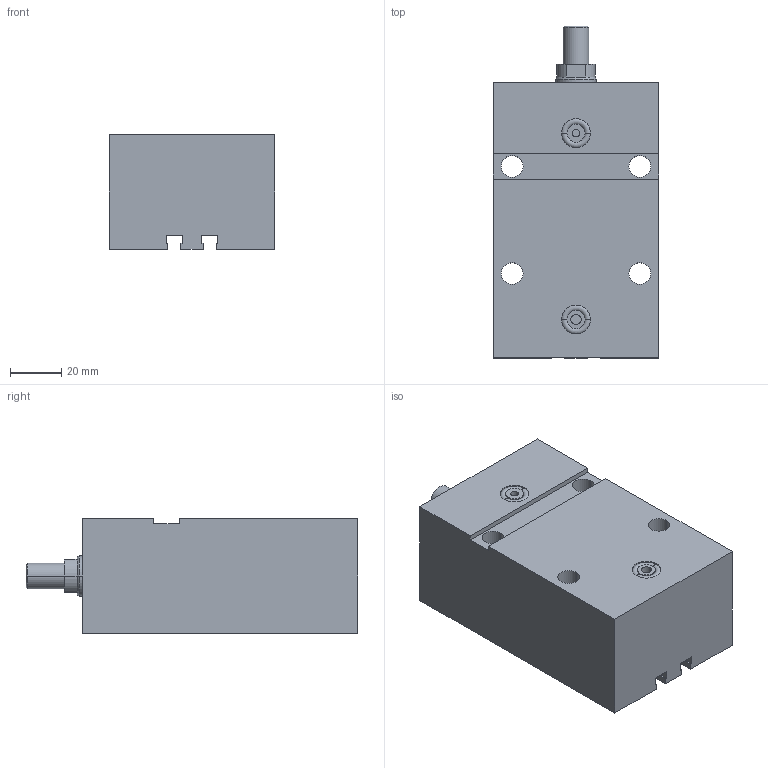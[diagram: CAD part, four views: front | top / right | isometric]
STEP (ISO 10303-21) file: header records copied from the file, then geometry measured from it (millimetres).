
FILE_DESCRIPTION (( 'STEP AP203' ), '1' );
FILE_NAME ('GERMA_Blockzylinder_704-025-050-A.STEP', '2016-08-01T17:05:45', ( '' ), ( '' ), 'SwSTEP 2.0', 'SolidWorks 2015', '' );
FILE_SCHEMA (( 'CONFIG_CONTROL_DESIGN' ));
Length unit declared in the file: millimetre
Products named in the file (3): GERMA_Blockzylinder_704-025-050-A; GH-700-025_GH-704-025-050; Kolben_MT 70x-025_Kolben_MT DU.25-Hub50-AG
Assembly tree (2 placements, depth 2):
  GERMA_Blockzylinder_704-025-050-A
    GH-700-025_GH-704-025-050
    Kolben_MT 70x-025_Kolben_MT DU.25-Hub50-AG
Bounding box: 65 x 130 x 45 mm (x, y, z)
Volume: 285191.1 mm3; surface area: 51322.4 mm2
Topology: 2 solids, 2 shells, 100 faces, 232 edges, 145 vertices
Faces by surface type: plane 43, cylinder 41, cone 12, torus 4
Entity records: 3142 total; most frequent: DIRECTION 535, CARTESIAN_POINT 478, ORIENTED_EDGE 456, EDGE_CURVE 228, AXIS2_PLACEMENT_3D 202, VERTEX_POINT 145, VECTOR 131, LINE 131
